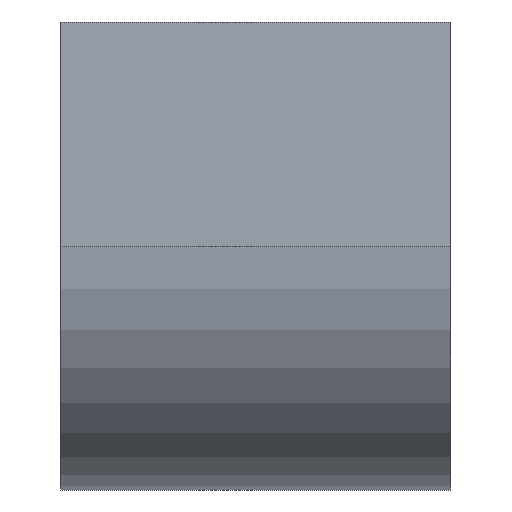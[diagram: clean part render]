
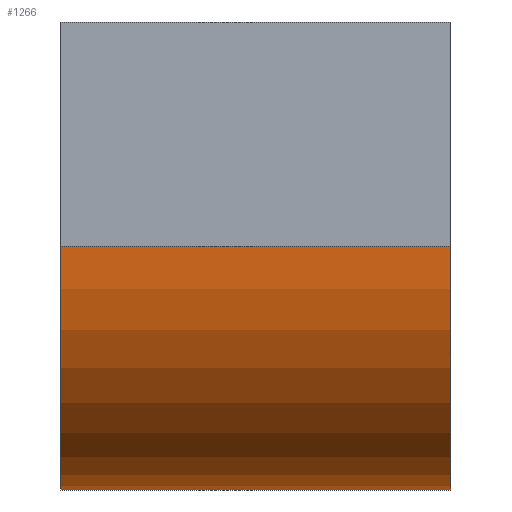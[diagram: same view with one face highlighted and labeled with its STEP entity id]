
A CAD part, front view. The second image highlights one B-rep face of the part: STEP entity #1266.
In plain terms, the highlighted cylindrical face has radius 125 mm (diameter 250 mm), a partial arc.
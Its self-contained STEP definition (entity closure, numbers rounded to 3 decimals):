
#76 = VERTEX_POINT ( 'NONE', #987 ) ;
#91 = LINE ( 'NONE', #602, #1299 ) ;
#139 = FACE_OUTER_BOUND ( 'NONE', #1453, .T. ) ;
#141 = CIRCLE ( 'NONE', #763, 125. ) ;
#237 = VERTEX_POINT ( 'NONE', #1344 ) ;
#244 = CARTESIAN_POINT ( 'NONE',  ( 100., 50., -115. ) ) ;
#295 = DIRECTION ( 'NONE',  ( -1., 0., 0. ) ) ;
#341 = VERTEX_POINT ( 'NONE', #881 ) ;
#389 = CIRCLE ( 'NONE', #467, 125. ) ;
#436 = DIRECTION ( 'NONE',  ( 1., 0., 0. ) ) ;
#467 = AXIS2_PLACEMENT_3D ( 'NONE', #1334, #436, #1358 ) ;
#602 = CARTESIAN_POINT ( 'NONE',  ( 100., 50., -240. ) ) ;
#611 = CARTESIAN_POINT ( 'NONE',  ( -100., 50., -115. ) ) ;
#618 = LINE ( 'NONE', #1140, #1413 ) ;
#681 = EDGE_CURVE ( 'NONE', #237, #1285, #618, .T. ) ;
#711 = EDGE_CURVE ( 'NONE', #1285, #76, #141, .T. ) ;
#718 = DIRECTION ( 'NONE',  ( -1., 0., 0. ) ) ;
#760 = EDGE_CURVE ( 'NONE', #341, #76, #91, .T. ) ;
#763 = AXIS2_PLACEMENT_3D ( 'NONE', #611, #872, #1000 ) ;
#872 = DIRECTION ( 'NONE',  ( 1., 0., 0. ) ) ;
#881 = CARTESIAN_POINT ( 'NONE',  ( 100., 50., -240. ) ) ;
#952 = ORIENTED_EDGE ( 'NONE', *, *, #1355, .F. ) ;
#987 = CARTESIAN_POINT ( 'NONE',  ( -100., 50., -240. ) ) ;
#1000 = DIRECTION ( 'NONE',  ( 0., 0., 1. ) ) ;
#1026 = CARTESIAN_POINT ( 'NONE',  ( -100., -75., -115. ) ) ;
#1035 = ORIENTED_EDGE ( 'NONE', *, *, #711, .T. ) ;
#1112 = AXIS2_PLACEMENT_3D ( 'NONE', #244, #295, #1323 ) ;
#1126 = DIRECTION ( 'NONE',  ( -1., 0., 0. ) ) ;
#1140 = CARTESIAN_POINT ( 'NONE',  ( 100., -75., -115. ) ) ;
#1266 = ADVANCED_FACE ( 'NONE', ( #139 ), #1294, .T. ) ;
#1285 = VERTEX_POINT ( 'NONE', #1026 ) ;
#1294 = CYLINDRICAL_SURFACE ( 'NONE', #1112, 125. ) ;
#1299 = VECTOR ( 'NONE', #1126, 1000. ) ;
#1323 = DIRECTION ( 'NONE',  ( 0., 0., 1. ) ) ;
#1334 = CARTESIAN_POINT ( 'NONE',  ( 100., 50., -115. ) ) ;
#1344 = CARTESIAN_POINT ( 'NONE',  ( 100., -75., -115. ) ) ;
#1355 = EDGE_CURVE ( 'NONE', #237, #341, #389, .T. ) ;
#1358 = DIRECTION ( 'NONE',  ( 0., 0., 1. ) ) ;
#1413 = VECTOR ( 'NONE', #718, 1000. ) ;
#1453 = EDGE_LOOP ( 'NONE', ( #1035, #1598, #952, #1513 ) ) ;
#1513 = ORIENTED_EDGE ( 'NONE', *, *, #681, .T. ) ;
#1598 = ORIENTED_EDGE ( 'NONE', *, *, #760, .F. ) ;
